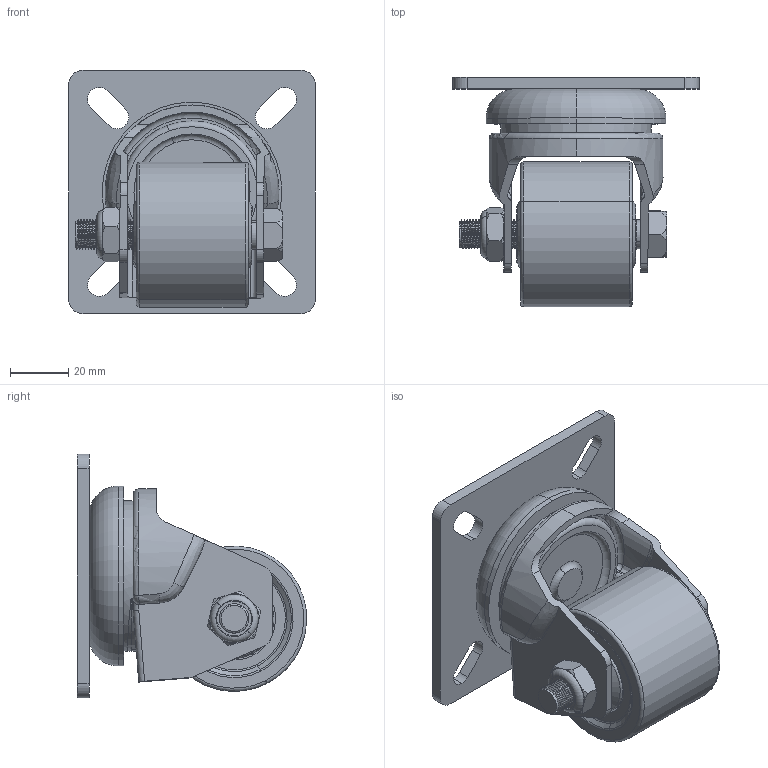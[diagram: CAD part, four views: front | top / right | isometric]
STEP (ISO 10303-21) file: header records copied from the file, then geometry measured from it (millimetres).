
FILE_DESCRIPTION (( 'STEP AP214' ), '1' );
FILE_NAME ('MXN50-P.step', '2024-01-17T23:01:24', ( '' ), ( '' ), 'SwSTEP 2.0', 'SolidWorks 2022', '' );
FILE_SCHEMA (( 'AUTOMOTIVE_DESIGN' ));
Length unit declared in the file: millimetre
Products named in the file (7): MXN50; M10-Nyloc; 84X84 PLATE; MXN50-P; M10X65; STEM 12mm
Assembly tree (6 placements, depth 2):
  MXN50-P
    84X84 PLATE
    MXN50-P
    M10X65
    M10-Nyloc
    MXN50
    STEM 12mm
Bounding box: 85 x 78.96 x 84 mm (x, y, z)
Volume: 162045.9 mm3; surface area: 57826 mm2
Topology: 6 solids, 6 shells, 625 faces, 1657 edges, 1078 vertices
Faces by surface type: plane 278, cylinder 162, bspline 112, torus 40, cone 29, sphere 4
Entity records: 30899 total; most frequent: CARTESIAN_POINT 15220, ORIENTED_EDGE 3314, DIRECTION 2570, EDGE_CURVE 1657, VERTEX_POINT 1078, LINE 922, VECTOR 922, AXIS2_PLACEMENT_3D 824
